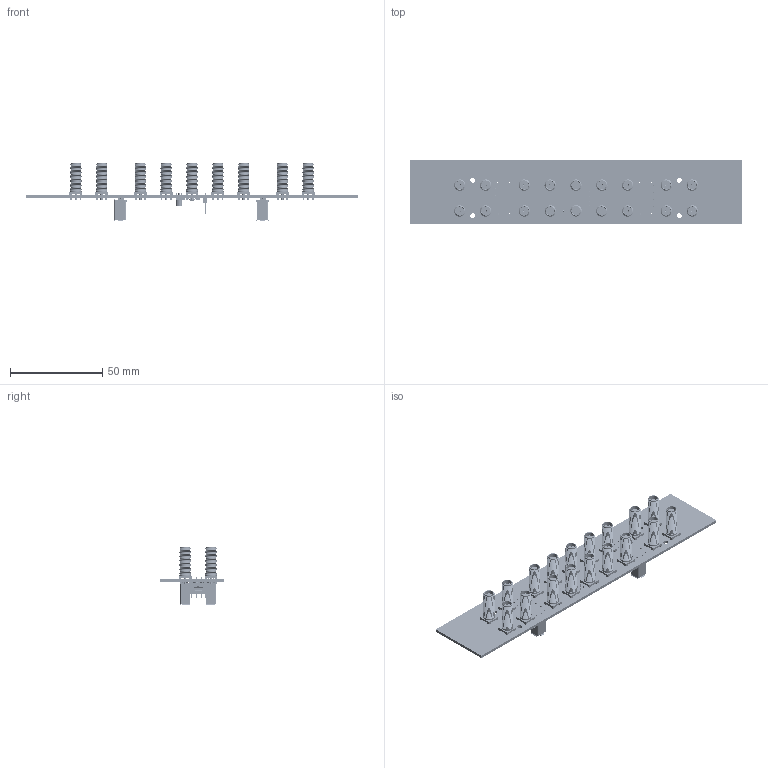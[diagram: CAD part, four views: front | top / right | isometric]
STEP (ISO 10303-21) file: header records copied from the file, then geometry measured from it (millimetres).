
FILE_DESCRIPTION(('KiCad electronic assembly'),'2;1');
FILE_NAME('SMT-FMC116-UKAEA-16.step','2026-02-11T10:04:12',('Pcbnew'),( 'Kicad'),'Open CASCADE STEP processor 7.8','KiCad to STEP converter' ,'Unknown');
FILE_SCHEMA(('AUTOMOTIVE_DESIGN { 1 0 10303 214 1 1 1 1 }'));
Length unit declared in the file: millimetre
Products named in the file (22): SMT-FMC116-UKAEA-16 1; R_0402_1005Metric; SMA_Amphenol_132291-12_Vertical; ARF6-16-S-D-A-K-TR; ARF6-16_SOCKET; SUB-C-435-03.5-16_PINS; SUB-C-435-03.5-162_PINS; ARF6-16_SHIELD; Roundel; C_0603_1608Metric; MMCX_Molex_73415-1471_Vertical; U.FL_Molex_MCRF_73412-0110_Vertical; COMPOUND; SSOP-8_2.95x2.8mm_P0.65mm; PinHeader_1x04_P2.54mm_Vertical; SMT-FMC116-UKAEA-16_copper; SMT-FMC116-UKAEA-16_pad; SMT-FMC116-UKAEA-16_via; SMT-FMC116-UKAEA-16_silkscreen; SMT-FMC116-UKAEA-16_soldermask; SMT-FMC116-UKAEA-16_PCB
Assembly tree (58 placements, depth 3):
  SMT-FMC116-UKAEA-16 1
    R_0402_1005Metric  x16
    SMA_Amphenol_132291-12_Vertical  x18
    ARF6-16-S-D-A-K-TR  x2
      ARF6-16_SOCKET
      SUB-C-435-03.5-16_PINS
      SUB-C-435-03.5-162_PINS
      ARF6-16_SHIELD
      Roundel
    C_0603_1608Metric  x3
    MMCX_Molex_73415-1471_Vertical
    U.FL_Molex_MCRF_73412-0110_Vertical
      COMPOUND
      COMPOUND
    SSOP-8_2.95x2.8mm_P0.65mm
    PinHeader_1x04_P2.54mm_Vertical
    SMT-FMC116-UKAEA-16_copper
    SMT-FMC116-UKAEA-16_pad
    SMT-FMC116-UKAEA-16_via
    SMT-FMC116-UKAEA-16_silkscreen
    SMT-FMC116-UKAEA-16_soldermask
    SMT-FMC116-UKAEA-16_PCB
Bounding box: 180 x 35 x 31.65 mm (x, y, z)
Volume: 18496.7 mm3; surface area: 66602.6 mm2
Topology: 768 solids, 1400 shells, 24440 faces, 75110 edges, 53018 vertices
Faces by surface type: plane 15782, cylinder 7799, cone 820, bspline 34, torus 5
Full cylindrical faces by diameter (mm): 0.25 x123, 0.275 x246, 0.3 x123, 0.5 x1, 0.71 x2, 0.78 x24, 0.79 x15, 0.8 x2, 0.83 x16, 0.84 x10, 0.95 x16, 0.96 x18, 1 x8, 1.24 x10, 1.27 x18, 1.338 x16, 1.45 x54, 1.458 x6, 1.5 x36, 1.65 x217, 1.7 x150, 2.05 x36, 2.25 x144, 2.41 x1, 2.54 x1, 2.65 x20, 2.675 x8, 2.7 x8, 2.88 x1, 3.01 x1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
Entity records: 580781 total; most frequent: CARTESIAN_POINT 105772, DIRECTION 93807, ORIENTED_EDGE 91040, EDGE_CURVE 50883, LINE 38111, VECTOR 38111, VERTEX_POINT 37423, AXIS2_PLACEMENT_3D 27848
